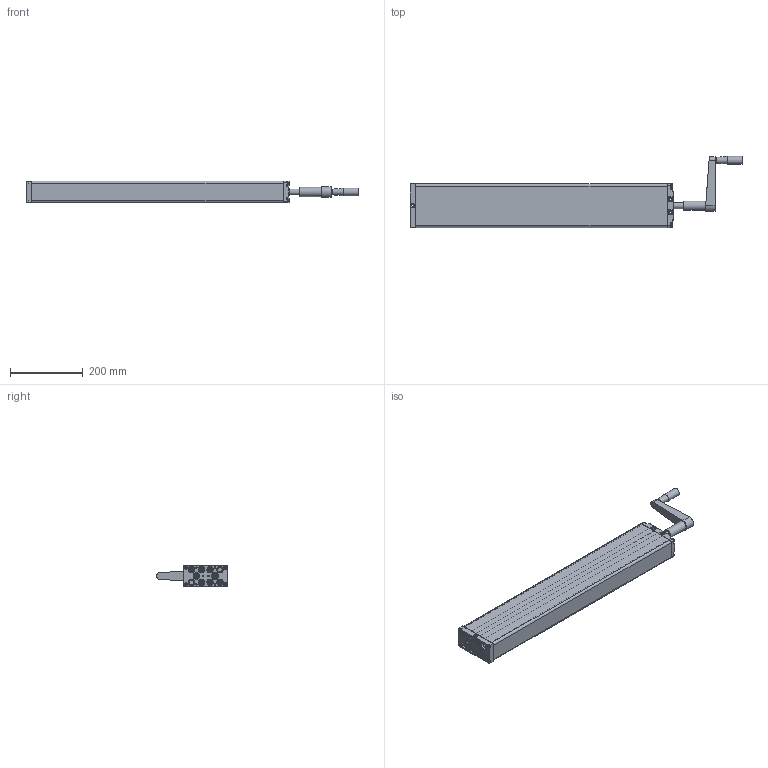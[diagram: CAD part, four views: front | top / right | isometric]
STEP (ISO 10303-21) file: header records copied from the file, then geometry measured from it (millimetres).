
FILE_DESCRIPTION(/* description */ ('Unknown'),/* implementation_level */ '2;1');
FILE_NAME(/* name */ '312.20195 Pumpe PB 8430 W mit Handkurbel',/* time_stamp */ '2016-11-24T16:53:32+01:00',/* author */ ('Unknown'),/* organization */ ('Unknown'),/* preprocessor_version */ 'ST-DEVELOPER v16.7',/* originating_system */ 'DEX',/* authorisation */ $);
FILE_SCHEMA (('AUTOMOTIVE_DESIGN {1 0 10303 214 3 1 1}'));
Products named in the file (22): 102.00195; 115.10025; 125.00031; 115.00007; 142.00021; 125.00021; 113.00005; 128.00001; 125.00052; 126.00013; 125.00053; 127.00014; Handgriff; 142.00013; 125.00145; 115.00140; 126.00006; 122.00040; 119.00045; 126.00036; 142.00057; 142.00017
Assembly tree (36 placements, depth 3):
  102.00195
    115.10025  x8
      125.00031
      115.00007
      142.00021
      125.00021
    113.00005
      128.00001
      125.00052
      126.00013
      125.00053
      127.00014
      Handgriff
    142.00013  x8
    125.00145
    115.00140
      126.00006
      122.00040
    119.00045
    126.00036
    142.00057
    142.00017  x2
Bounding box: 912.75 x 195.5 x 60.3 mm (x, y, z)
Volume: 1024960.1 mm3; surface area: 660973.3 mm2
Topology: 46 solids, 46 shells, 2177 faces, 4972 edges, 2915 vertices
Faces by surface type: plane 775, cylinder 502, bspline 380, cone 360, torus 102, sphere 58
Full cylindrical faces by diameter (mm): 3.5 x8, 4 x2, 4.1 x8, 4.134 x4, 4.2 x9, 4.917 x4, 5 x8, 5.8 x4, 6 x2, 6.8 x1, 6.917 x16, 8 x18, 9 x8, 9.8 x8, 10 x6, 10.4 x1, 10.5 x4, 12.5 x8, 12.8 x1, 13 x27, 13.9 x16, 14 x1, 16 x2, 17 x1, 18 x11, 19 x1, 20.6 x1, 21 x1, 22 x1, 25.5 x1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
Entity records: 63563 total; most frequent: CARTESIAN_POINT 30444, ORIENTED_EDGE 5318, DIRECTION 4749, EDGE_CURVE 2659, AXIS2_PLACEMENT_3D 1850, VERTEX_POINT 1690, FACE_BOUND 1519, EDGE_LOOP 1516
